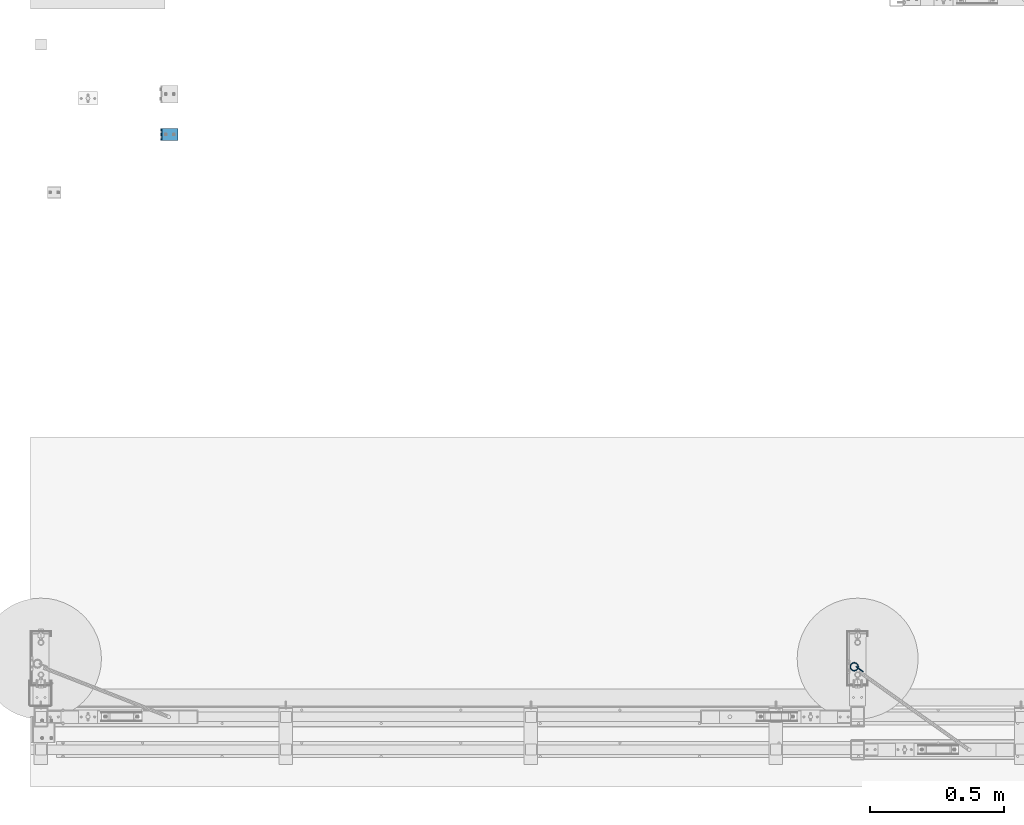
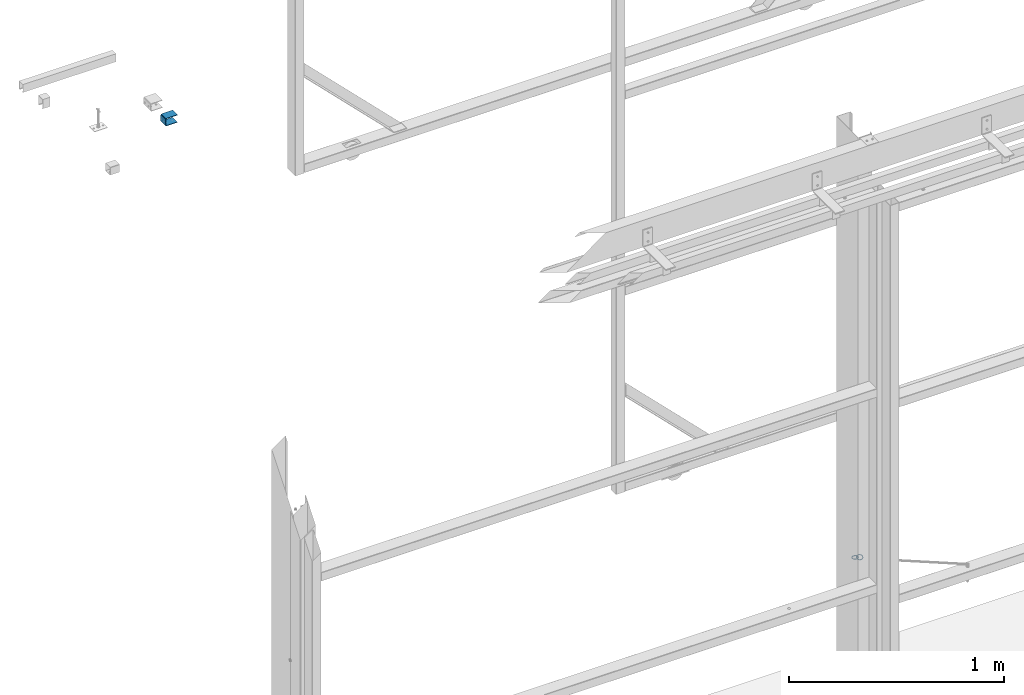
# One storey, part 86 of 91: 3 beams, 3 elements without a shape of their own.
"""IFC2X3 building model written with IfcOpenShell, lengths in millimetres."""

import ifcopenshell
import ifcopenshell.guid

model = None  # the IFC model being written
_history = None  # IfcOwnerHistory: only IFC2X3 demands one
_inside = {}  # id of a spatial element -> (the spatial element, [elements in it])
_under = {}  # id of a project, library or spatial element -> (it, [spatial elements below it])
_declared = {}  # id of a project -> (the project, [libraries it declares])
_typed = {}  # id of a type object -> (the type object, [elements of that type])
_made_of = {}  # id of a material, layer set ... -> (it, [elements and type objects made of it])


def new_model(schema):
    """Start an empty IFC model of exactly this schema.

    Asked for "IFC4X3", IfcOpenShell would pick the latest addendum, in which some entities
    have other attributes; the version numbers below select the first issue.
    IFC2X3 requires an IfcOwnerHistory on every rooted entity: one is made here for all.
    """
    global model, _history
    if schema == "IFC4X3":
        model = ifcopenshell.file(schema_version=(4, 3, 0, 0))
    else:
        model = ifcopenshell.file(schema=schema)
    _inside.clear()
    _under.clear()
    _declared.clear()
    _typed.clear()
    _made_of.clear()
    _history = None
    if model.schema == "IFC2X3":
        org = make("IfcOrganization", Name="unknown")
        user = make(
            "IfcPersonAndOrganization",
            ThePerson=make("IfcPerson", FamilyName="unknown"),
            TheOrganization=org,
        )
        app = make(
            "IfcApplication",
            ApplicationDeveloper=org,
            Version="unknown",
            ApplicationFullName="unknown",
            ApplicationIdentifier="unknown",
        )
        _history = make(
            "IfcOwnerHistory",
            OwningUser=user,
            OwningApplication=app,
            ChangeAction="ADDED",
            CreationDate=0,
        )
    return model


def make(cls, **values):
    """One entity of the class cls with the attributes given. An attribute that is None is left unset."""
    return model.create_entity(
        cls, **{name: value for name, value in values.items() if value is not None}
    )


def rooted(cls, **values):
    """An entity with a GlobalId (a new one), such as an element, a storey or a relation."""
    return make(cls, GlobalId=ifcopenshell.guid.new(), OwnerHistory=_history, **values)


def si_unit(unit_type, name, prefix=None):
    """IfcSIUnit, for example si_unit("LENGTHUNIT", "METRE", prefix="MILLI")."""
    return make("IfcSIUnit", UnitType=unit_type, Prefix=prefix, Name=name)


def assignment(units):
    """IfcUnitAssignment: the units of a project."""
    return None if units is None else make("IfcUnitAssignment", Units=units)


def point(xyz):
    """IfcCartesianPoint."""
    return None if xyz is None else make("IfcCartesianPoint", Coordinates=xyz)


def direction(xyz):
    """IfcDirection."""
    return None if xyz is None else make("IfcDirection", DirectionRatios=xyz)


def frame(location, z_axis=None, x_axis=None):
    """IfcAxis2Placement3D, a coordinate frame: its origin and axes. An axis left out is left unset."""
    return make(
        "IfcAxis2Placement3D",
        Location=point(location),
        Axis=direction(z_axis),
        RefDirection=direction(x_axis),
    )


def origin_with_axes():
    """The frame at (0, 0, 0) with the z axis (0, 0, 1) and the x axis (1, 0, 0) written out."""
    return frame((0.0, 0.0, 0.0), z_axis=(0.0, 0.0, 1.0), x_axis=(1.0, 0.0, 0.0))


def place(relative_to, where):
    """IfcLocalPlacement: puts the frame where relative to a parent placement (None: the world)."""
    return make(
        "IfcLocalPlacement", PlacementRelTo=relative_to, RelativePlacement=where
    )


def context(
    kind, dimensions, precision=None, world=None, true_north=None, identifier=None
):
    """IfcGeometricRepresentationContext, for example the 3D "Model" context."""
    return make(
        "IfcGeometricRepresentationContext",
        ContextIdentifier=identifier,
        ContextType=kind,
        CoordinateSpaceDimension=dimensions,
        Precision=precision,
        WorldCoordinateSystem=world,
        TrueNorth=true_north,
    )


def subcontext(parent, identifier, kind, view, scale=None):
    """IfcGeometricRepresentationSubContext, for example "Body" below "Model"."""
    return make(
        "IfcGeometricRepresentationSubContext",
        ContextIdentifier=identifier,
        ContextType=kind,
        ParentContext=parent,
        TargetScale=scale,
        TargetView=view,
    )


def project(units=None, contexts=None):
    """IfcProject with its units and contexts."""
    return rooted(
        "IfcProject",
        Name="project",
        RepresentationContexts=contexts,
        UnitsInContext=assignment(units),
    )


def spatial(cls, under=None, at=None, **own):
    """A site, building, storey or space (cls), placed at a placement, below another one or the project."""
    s = rooted(cls, ObjectPlacement=at, **own)
    if under is not None:
        _under.setdefault(under.id(), (under, []))[1].append(s)
    return s


def faces_of(points, faces, orient=None, outer=None):
    """IfcFace entities. A face is a list of loops; a loop is a list of indices into points, from 0.

    orient and outer hold one flag for each loop. By default every Orientation is true, the
    first loop of a face is its IfcFaceOuterBound and the others are IfcFaceBound.
    """
    made = []
    for i, loops in enumerate(faces):
        bounds = []
        for j, loop in enumerate(loops):
            is_outer = j == 0 if outer is None else outer[i][j]
            bounds.append(
                make(
                    "IfcFaceOuterBound" if is_outer else "IfcFaceBound",
                    Bound=make("IfcPolyLoop", Polygon=[points[k] for k in loop]),
                    Orientation=True if orient is None else orient[i][j],
                )
            )
        made.append(make("IfcFace", Bounds=bounds))
    return made


def faceted_brep(points, faces, orient=None, outer=None, voids=None):
    """IfcFacetedBrep: a solid bounded by flat faces; with voids (closed shells), ...WithVoids."""
    shared = [point(p) for p in points]
    hull = make("IfcClosedShell", CfsFaces=faces_of(shared, faces, orient, outer))
    if voids is None:
        return make("IfcFacetedBrep", Outer=hull)
    return make(
        "IfcFacetedBrepWithVoids",
        Outer=hull,
        Voids=[
            make(cls, CfsFaces=faces_of(shared, fs, o, b)) for cls, fs, o, b in voids
        ],
    )


def shape(context_of_items, identifier, shape_type, items):
    """IfcShapeRepresentation: the items that make up one representation, for example the "Body"."""
    return make(
        "IfcShapeRepresentation",
        ContextOfItems=context_of_items,
        RepresentationIdentifier=identifier,
        RepresentationType=shape_type,
        Items=items,
    )


def material(Name=None, Category=None):
    """IfcMaterial."""
    return make("IfcMaterial", Name=Name, Category=Category)


def made_of(thing, what):
    """Note that an element or type object is made of a material, layer set ...; save() writes the relation."""
    if what is not None:
        _made_of.setdefault(what.id(), (what, []))[1].append(thing)
    return thing


def type_object(cls, material=None, **own):
    """A type object (cls), such as IfcWallType, which elements share."""
    return made_of(rooted(cls, **own), material)


def element(
    cls,
    number,
    at=None,
    inside=None,
    cuts=None,
    type_object=None,
    material=None,
    context=None,
    identifier="Body",
    shape_type=None,
    held_by="IfcProductDefinitionShape",
    body=None,
    shapes=None,
    **own,
):
    """One element of the class cls, such as IfcWall. Its Tag is "e" and its number.

    at: its placement. inside: the storey or other place that contains it. cuts: it is an
    opening in that element (IfcRelVoidsElement). A single representation is given by context,
    identifier, shape_type and body (its items); several are given by shapes. held_by: the class
    of the entity that holds the representations. save() writes the other relations.
    """
    e = rooted(cls, Tag="e%d" % number, ObjectPlacement=at, **own)
    if body is not None:
        shapes = [shape(context, identifier, shape_type, body)]
    if shapes is not None:
        e.Representation = make(held_by, Representations=shapes)
    if inside is not None:
        _inside.setdefault(inside.id(), (inside, []))[1].append(e)
    if cuts is not None:
        rooted(
            "IfcRelVoidsElement", RelatingBuildingElement=cuts, RelatedOpeningElement=e
        )
    if type_object is not None:
        _typed.setdefault(type_object.id(), (type_object, []))[1].append(e)
    return made_of(e, material)


def aggregate(whole, parts):
    """IfcRelAggregates: a whole, such as a stair, and the parts it consists of."""
    return rooted("IfcRelAggregates", RelatingObject=whole, RelatedObjects=parts)


def save(model, path):
    """Write the relations noted so far, then the file.

    IfcRelAggregates (storeys below a building ...), IfcRelContainedInSpatialStructure (elements
    in a storey), IfcRelDefinesByType, IfcRelAssociatesMaterial and IfcRelDeclares: one each for
    every whole, place, type object, material and project.
    """
    for whole, parts in _under.values():
        aggregate(whole, parts)
    for where, things in _inside.values():
        rooted(
            "IfcRelContainedInSpatialStructure",
            RelatedElements=things,
            RelatingStructure=where,
        )
    for kind, things in _typed.values():
        rooted("IfcRelDefinesByType", RelatedObjects=things, RelatingType=kind)
    for what, things in _made_of.values():
        rooted("IfcRelAssociatesMaterial", RelatedObjects=things, RelatingMaterial=what)
    for by, libraries in _declared.values():
        rooted("IfcRelDeclares", RelatingContext=by, RelatedDefinitions=libraries)
    model.write(path)


model = new_model("IFC2X3")

# Units and contexts
model_context = context("Model", 3, precision=1e-05, world=origin_with_axes())
body_context = subcontext(model_context, "Body", "Model", "MODEL_VIEW")
ifc_project = project(units=[si_unit("LENGTHUNIT", "METRE", prefix="MILLI"), si_unit("AREAUNIT", "SQUARE_METRE"), si_unit("VOLUMEUNIT", "CUBIC_METRE"), si_unit("MASSUNIT", "GRAM", prefix="KILO"), si_unit("TIMEUNIT", "SECOND"), si_unit("PLANEANGLEUNIT", "RADIAN"), si_unit("SOLIDANGLEUNIT", "STERADIAN"), si_unit("THERMODYNAMICTEMPERATUREUNIT", "DEGREE_CELSIUS"), si_unit("LUMINOUSINTENSITYUNIT", "LUMEN")], contexts=[model_context])

# Site, building, storey
site_placement = place(None, origin_with_axes())
site = spatial("IfcSite", under=ifc_project, at=site_placement, Name="Undefined", CompositionType="ELEMENT")
building_placement = place(site_placement, origin_with_axes())
building = spatial("IfcBuilding", under=site, at=building_placement, Name="Undefined", CompositionType="ELEMENT")
storey_placement = place(building_placement, origin_with_axes())
storey = spatial("IfcBuildingStorey", under=building, at=storey_placement, Name="Undefined", CompositionType="ELEMENT", Elevation=0.0)

# Assembly, beam
assembly_1_placement = place(storey_placement, origin_with_axes())
assembly_1 = element("IfcElementAssembly", 1, at=assembly_1_placement, inside=storey, Name="PLATE", AssemblyPlace="NOTDEFINED", PredefinedType="RIGID_FRAME")
ifc_material_1 = material(Name="STEEL/450")
beam_type_1 = type_object("IfcBeamType", Name="PLT3*44", PredefinedType="NOTDEFINED")
beam_1_placement = place(assembly_1_placement, frame((-116285.88, 89877.61, 3371.5), z_axis=(0.0, -1.0, 0.0), x_axis=(-1.0, 0.0, 0.0)))
beam_1 = element("IfcBeam", 2, at=beam_1_placement, type_object=beam_type_1, material=ifc_material_1, Name="PLATE", ObjectType="PLT3*44", context=body_context, shape_type="Brep", body=[
    faceted_brep([(0.0, 1.5, -22.0), (0.0, 1.5, 22.0), (56.0, 1.5, 22.0), (55.9999999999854, 1.5, -22.0), (0.0, -1.5, 22.0), (0.0, -1.5, -22.0), (56.0, -1.5, -22.0), (56.0, -1.5, 22.0), (59.0000000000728, 2.30384757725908, 22.0), (59.0000000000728, 2.30384757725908, -22.0), (60.5000000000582, -0.294228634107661, -22.0), (60.5000000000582, -0.294228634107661, 22.0), (63.794228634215, 2.99999999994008, -22.0), (63.794228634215, 2.99999999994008, 22.0), (61.1961524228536, 4.49999999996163, 22.0), (61.1961524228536, 4.49999999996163, -22.0), (65.0000000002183, 7.49999999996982, -22.0), (65.0000000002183, 7.49999999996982, 22.0), (62.0000000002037, 7.49999999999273, 22.0), (62.0, 7.5, -22.0), (62.0, 33.5, 22.0), (61.9999999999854, 33.4999999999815, -22.0), (65.0, 33.5, -22.0), (65.0, 33.5, 22.0), (61.1961524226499, 36.4999999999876, 22.0), (61.1961524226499, 36.4999999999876, -22.0), (63.7942286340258, 37.9999999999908, -22.0), (63.7942286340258, 37.9999999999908, 22.0), (60.4999999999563, 41.2942286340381, -22.0), (60.4999999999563, 41.2942286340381, 22.0), (58.9999999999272, 38.6961524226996, 22.0), (58.9999999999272, 38.6961524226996, -22.0), (55.9999999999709, 42.5000000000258, -22.0), (55.9999999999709, 42.5000000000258, 22.0), (55.9999999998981, 39.5000000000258, 22.0), (56.0, 39.5, -22.0), (0.0, 39.5, 22.0), (0.0, 39.5, -22.0), (0.0, 42.5, 22.0), (0.0, 42.5, -22.0)], [[[0, 1, 2, 3]], [[4, 5, 6, 7]], [[5, 4, 1, 0]], [[3, 2, 8, 9]], [[7, 6, 10, 11]], [[10, 12, 13, 11]], [[8, 14, 15, 9]], [[12, 16, 17, 13]], [[14, 18, 19, 15]], [[19, 18, 20, 21]], [[17, 16, 22, 23]], [[21, 20, 24, 25]], [[23, 22, 26, 27]], [[26, 28, 29, 27]], [[24, 30, 31, 25]], [[28, 32, 33, 29]], [[30, 34, 35, 31]], [[35, 34, 36, 37]], [[34, 30, 24, 20, 18, 14, 8, 2, 1, 4, 7, 11, 13, 17, 23, 27, 29, 33, 38, 36]], [[33, 32, 39, 38]], [[32, 28, 26, 22, 16, 12, 10, 6, 5, 0, 3, 9, 15, 19, 21, 25, 31, 35, 37, 39]], [[38, 39, 37, 36]]]),
])
aggregate(assembly_1, [beam_1])

assembly_2_placement = place(storey_placement, origin_with_axes())
assembly_2 = element("IfcElementAssembly", 3, at=assembly_2_placement, inside=storey, Name="LINKS", AssemblyPlace="NOTDEFINED", PredefinedType="RIGID_FRAME")
ifc_material_2 = material(Name="STEEL/250")
beam_type_2 = type_object("IfcBeamType", Name="D5", PredefinedType="NOTDEFINED")
beam_2_placement = place(assembly_2_placement, frame((-113786.143040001, 87883.3948728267, 1162.34), z_axis=(0.0, 1.0, 0.0), x_axis=(1.0, 0.0, 0.0)))
beam_2 = element("IfcBeam", 4, at=beam_2_placement, type_object=beam_type_2, material=ifc_material_2, Name="LINKS", ObjectType="D5", context=body_context, shape_type="Brep", body=[
    faceted_brep([(31.767766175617, -1.76776700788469, 14.8999996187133), (32.4999992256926, -5.6170392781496e-08, 14.8999996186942), (32.4999992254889, -5.59666659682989e-08, 15.1000003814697), (31.7677661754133, -1.76776700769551, 15.1000003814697), (31.7677661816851, 1.76776689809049, 14.8999996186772), (31.7677661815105, 1.76776689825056, 15.1000003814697), (29.9999992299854, 2.49999994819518, 14.8999996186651), (29.9999992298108, 2.49999994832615, 15.1000003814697), (28.2322322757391, 1.76776690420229, 14.8999996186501), (28.232232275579, 1.76776690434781, 15.1000003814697), (27.4999992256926, -4.74974513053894e-08, 14.8999996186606), (27.4999992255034, -4.73810359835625e-08, 15.1000003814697), (28.2322322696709, -1.76776700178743, 14.8999996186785), (28.2322322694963, -1.76776700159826, 15.1000003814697), (29.999999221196, -2.5000000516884, 14.8999996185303), (29.9999992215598, -2.50000005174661, 15.100000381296), (28.0037777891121, -2.50000004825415, 22.5500001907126), (26.4728467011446, -1.76776699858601, 21.6661167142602), (25.8387142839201, -4.44706529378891e-08, 21.3000001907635), (26.4728467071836, 1.76776690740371, 21.666116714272), (28.0037777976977, 2.49999995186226, 22.5500001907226), (29.5347088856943, 1.76776690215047, 23.4338836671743), (30.1688413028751, -5.19503373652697e-08, 23.8000001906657), (29.5347088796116, -1.76776700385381, 23.4338836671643), (15.1008655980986, -2.49999993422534, 30.0000000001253), (22.5499994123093, -2.50000003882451, 28.0037785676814), (23.43388289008, -1.76776699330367, 29.5347096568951), (15.1008656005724, -1.767766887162, 31.7677669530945), (15.1008656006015, -1.76776688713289, 28.2322330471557), (21.6661159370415, -1.76776699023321, 26.4728474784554), (15.1008656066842, 6.58328644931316e-08, 27.5000000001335), (21.2999994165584, -3.6612618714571e-08, 25.8387150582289), (15.1008670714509, 1.76776695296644, 28.2322330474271), (21.6661159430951, 1.76776691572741, 26.4728474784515), (15.1008656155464, 2.50000006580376, 30.0), (22.5499994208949, 2.49999996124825, 28.0037785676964), (15.1000003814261, 1.76776695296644, 31.767766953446), (23.433882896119, 1.76776691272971, 29.5347096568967), (15.1008656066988, 6.58183125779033e-08, 32.5000000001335), (23.7999994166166, -4.09199856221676e-08, 30.1688420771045), (29.5347088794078, -1.76776700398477, 6.56611633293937), (28.0037777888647, -2.50000004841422, 7.44999980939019), (30.1688413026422, -5.2081304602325e-08, 6.19999980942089), (29.5347088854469, 1.7677669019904, 6.56611633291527), (28.0037777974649, 2.49999995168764, 7.44999980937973), (26.4728467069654, 1.7677669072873, 8.33388328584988), (25.8387142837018, -4.46161720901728e-08, 8.69999980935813), (26.4728467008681, -1.76776699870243, 8.33388328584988), (22.5499994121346, -2.50000003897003, 1.99622143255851), (21.6661159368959, -1.76776699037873, 3.52715252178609), (23.4338828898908, -1.76776699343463, 0.465290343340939), (23.7999994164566, -4.10655047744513e-08, -0.168842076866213), (23.4338828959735, 1.76776691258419, 0.465290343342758), (22.5499994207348, 2.49999996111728, 1.99622143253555), (21.666115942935, 1.76776691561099, 3.52715252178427), (21.2999994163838, -3.67290340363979e-08, 4.16128494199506), (15.100865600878, -1.76776688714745, 1.76776695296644), (15.1008656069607, 6.58183125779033e-08, 2.5), (15.1008655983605, -2.49999993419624, 0.0), (15.100865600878, -1.76776688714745, -1.76776695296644), (15.1008656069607, 6.58183125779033e-08, -2.5), (15.1008670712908, 1.76776695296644, -1.76776695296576), (15.1008656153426, 2.50000006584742, -8.84483597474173e-11), (15.1000003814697, 1.76776695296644, 1.76776695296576), (-1.56690095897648, 1.76776707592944, 14.899999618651), (-2.29913401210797, 1.25408405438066e-07, 14.8999996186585), (-2.2991340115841, 1.25524820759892e-07, 15.1000003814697), (-1.56690095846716, 1.7677670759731, 15.1000003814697), (-1.56690097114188, -1.76776683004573, 14.8999996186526), (-1.56690097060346, -1.76776682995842, 15.1000003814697), (0.200865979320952, -2.49999988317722, 14.8999996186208), (0.200865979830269, -2.49999988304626, 15.1000003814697), (1.96863293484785, -1.76776684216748, 14.8999996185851), (1.96863293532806, -1.76776684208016, 15.1000003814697), (2.70086598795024, 1.08309905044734e-07, 14.899999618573), (2.7008659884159, 1.08382664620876e-07, 15.1000003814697), (1.96863294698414, 1.7677670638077, 14.8999996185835), (1.96863294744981, 1.7677670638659, 15.1000003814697), (0.200865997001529, 2.50000011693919, 14.8999996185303), (0.200865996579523, 2.50000011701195, 15.1000003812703), (2.19708742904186, 2.5000001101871, 22.5500001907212), (3.72801851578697, 1.76776705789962, 21.6661167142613), (4.36215092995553, 1.02707417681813e-07, 21.3000001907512), (3.72801850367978, -1.76776684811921, 21.6661167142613), (2.19708741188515, -2.49999988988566, 22.5500001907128), (0.666156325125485, -1.76776683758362, 23.43388366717), (0.0320239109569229, 1.17594026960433e-07, 23.8000001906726), (0.66615633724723, 1.76776706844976, 23.4338836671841), (7.65086580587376, 2.50000009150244, 28.003778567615), (6.76698232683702, 1.76776704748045, 29.5347096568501), (8.53474927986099, 1.76776704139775, 26.4728474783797), (8.90086579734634, 8.71368683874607e-08, 25.8387150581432), (8.53474926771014, -1.76776686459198, 26.4728474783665), (7.65086578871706, -2.49999990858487, 28.0037785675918), (6.76698231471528, -1.76776685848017, 29.534709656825), (6.40086579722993, 9.57516022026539e-08, 30.1688420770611), (0.66615633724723, 1.76776706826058, 6.56611633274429), (2.19708742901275, 2.50000011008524, 7.44999980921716), (0.032023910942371, 1.1743395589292e-07, 6.19999980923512), (0.666156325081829, -1.76776683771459, 6.5661163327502), (2.19708741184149, -2.49999988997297, 7.44999980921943), (3.72801850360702, -1.76776684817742, 8.33388328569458), (4.36215092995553, 1.02634658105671e-07, 8.69999980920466), (3.72801851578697, 1.76776705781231, 8.33388328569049), (7.65086580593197, 2.50000009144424, 1.99622143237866), (8.5347492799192, 1.76776704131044, 3.52715252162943), (6.76698232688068, 1.76776704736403, 0.465290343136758), (6.40086579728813, 9.5635186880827e-08, -0.168842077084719), (6.76698231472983, -1.76776685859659, 0.465290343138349), (7.65086578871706, -2.49999990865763, 1.99622143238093), (8.53474926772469, -1.76776686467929, 3.52715252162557), (8.90086579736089, 8.70786607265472e-08, 4.16128494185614)], [[[0, 1, 2, 3]], [[1, 4, 5, 2]], [[4, 6, 7, 5]], [[6, 8, 9, 7]], [[8, 10, 11, 9]], [[10, 12, 13, 11]], [[12, 14, 15, 13]], [[13, 15, 16, 17]], [[11, 13, 17, 18]], [[9, 11, 18, 19]], [[7, 9, 19, 20]], [[5, 7, 20, 21]], [[2, 5, 21, 22]], [[3, 2, 22, 23]], [[24, 25, 26, 27]], [[28, 29, 25, 24]], [[30, 31, 29, 28]], [[32, 33, 31, 30]], [[34, 35, 33, 32]], [[36, 37, 35, 34]], [[38, 39, 37, 36]], [[27, 26, 39, 38]], [[22, 39, 26, 23]], [[21, 37, 39, 22]], [[20, 35, 37, 21]], [[19, 33, 35, 20]], [[18, 31, 33, 19]], [[17, 29, 31, 18]], [[16, 25, 29, 17]], [[23, 26, 25, 16]], [[15, 3, 23, 16]], [[14, 0, 3, 15]], [[40, 0, 14, 41]], [[42, 1, 0, 40]], [[43, 4, 1, 42]], [[44, 6, 4, 43]], [[45, 8, 6, 44]], [[46, 10, 8, 45]], [[47, 12, 10, 46]], [[41, 14, 12, 47]], [[48, 41, 47, 49]], [[50, 40, 41, 48]], [[51, 42, 40, 50]], [[52, 43, 42, 51]], [[53, 44, 43, 52]], [[54, 45, 44, 53]], [[55, 46, 45, 54]], [[49, 47, 46, 55]], [[56, 49, 55, 57]], [[58, 48, 49, 56]], [[59, 50, 48, 58]], [[60, 51, 50, 59]], [[61, 52, 51, 60]], [[62, 53, 52, 61]], [[63, 54, 53, 62]], [[57, 55, 54, 63]], [[64, 65, 66, 67]], [[65, 68, 69, 66]], [[68, 70, 71, 69]], [[70, 72, 73, 71]], [[72, 74, 75, 73]], [[74, 76, 77, 75]], [[76, 78, 79, 77]], [[77, 79, 80, 81]], [[75, 77, 81, 82]], [[73, 75, 82, 83]], [[71, 73, 83, 84]], [[69, 71, 84, 85]], [[66, 69, 85, 86]], [[67, 66, 86, 87]], [[88, 89, 36, 34]], [[90, 88, 34, 32]], [[91, 90, 32, 30]], [[92, 91, 30, 28]], [[93, 92, 28, 24]], [[94, 93, 24, 27]], [[95, 94, 27, 38]], [[89, 95, 38, 36]], [[86, 95, 89, 87]], [[85, 94, 95, 86]], [[84, 93, 94, 85]], [[83, 92, 93, 84]], [[82, 91, 92, 83]], [[81, 90, 91, 82]], [[80, 88, 90, 81]], [[87, 89, 88, 80]], [[79, 67, 87, 80]], [[78, 64, 67, 79]], [[96, 64, 78, 97]], [[98, 65, 64, 96]], [[99, 68, 65, 98]], [[100, 70, 68, 99]], [[101, 72, 70, 100]], [[102, 74, 72, 101]], [[103, 76, 74, 102]], [[97, 78, 76, 103]], [[104, 97, 103, 105]], [[106, 96, 97, 104]], [[107, 98, 96, 106]], [[108, 99, 98, 107]], [[109, 100, 99, 108]], [[110, 101, 100, 109]], [[111, 102, 101, 110]], [[105, 103, 102, 111]], [[105, 111, 57, 63]], [[104, 105, 63, 62]], [[106, 104, 62, 61]], [[107, 106, 61, 60]], [[108, 107, 60, 59]], [[109, 108, 59, 58]], [[110, 109, 58, 56]], [[111, 110, 56, 57]]]),
])
aggregate(assembly_2, [beam_2])

assembly_3_placement = place(storey_placement, origin_with_axes())
assembly_3 = element("IfcElementAssembly", 5, at=assembly_3_placement, inside=storey, Name="LINKS", AssemblyPlace="NOTDEFINED", PredefinedType="RIGID_FRAME")
beam_3_placement = place(assembly_3_placement, frame((-113763.740959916, 87898.2838980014, 1147.33595884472), z_axis=(0.0, 0.0, 1.0), x_axis=(0.815236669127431, -0.57912794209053, 0.0)))
beam_3 = element("IfcBeam", 6, at=beam_3_placement, type_object=beam_type_2, material=ifc_material_2, Name="LINKS", ObjectType="D5", context=body_context, shape_type="Brep", body=[
    faceted_brep([(28.2322322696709, -1.76776700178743, 14.8999996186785), (29.999999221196, -2.5000000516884, 14.8999996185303), (29.9999992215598, -2.50000005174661, 15.100000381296), (28.2322322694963, -1.76776700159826, 15.1000003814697), (31.767766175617, -1.76776700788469, 14.8999996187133), (31.7677661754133, -1.76776700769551, 15.1000003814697), (32.4999992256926, -5.6170392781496e-08, 14.8999996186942), (32.4999992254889, -5.59666659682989e-08, 15.1000003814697), (31.7677661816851, 1.76776689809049, 14.8999996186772), (31.7677661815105, 1.76776689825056, 15.1000003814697), (29.9999992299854, 2.49999994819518, 14.8999996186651), (29.9999992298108, 2.49999994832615, 15.1000003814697), (28.2322322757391, 1.76776690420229, 14.8999996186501), (28.232232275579, 1.76776690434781, 15.1000003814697), (27.4999992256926, -4.74974513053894e-08, 14.8999996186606), (27.4999992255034, -4.73810359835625e-08, 15.1000003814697), (25.8387142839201, -4.44706529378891e-08, 21.3000001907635), (26.4728467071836, 1.76776690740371, 21.666116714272), (28.0037777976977, 2.49999995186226, 22.5500001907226), (29.5347088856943, 1.76776690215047, 23.4338836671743), (30.1688413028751, -5.19503373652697e-08, 23.8000001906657), (29.5347088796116, -1.76776700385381, 23.4338836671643), (28.0037777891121, -2.50000004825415, 22.5500001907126), (26.4728467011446, -1.76776699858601, 21.6661167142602), (15.1008655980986, -2.49999993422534, 30.0000000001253), (22.5499994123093, -2.50000003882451, 28.0037785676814), (23.43388289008, -1.76776699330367, 29.5347096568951), (15.1008656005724, -1.767766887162, 31.7677669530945), (23.7999994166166, -4.09199856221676e-08, 30.1688420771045), (15.1008656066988, 6.58183125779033e-08, 32.5000000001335), (23.433882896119, 1.76776691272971, 29.5347096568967), (15.1008656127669, 1.76776701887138, 31.7677669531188), (22.5499994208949, 2.49999996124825, 28.0037785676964), (15.1008656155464, 2.50000006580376, 30.0), (15.1008656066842, 6.58328644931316e-08, 27.5000000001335), (21.2999994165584, -3.6612618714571e-08, 25.8387150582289), (21.6661159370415, -1.76776699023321, 26.4728474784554), (15.1008656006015, -1.76776688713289, 28.2322330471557), (15.0999996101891, 1.76776692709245, 28.2322330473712), (21.6661159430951, 1.76776691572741, 26.4728474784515), (26.4728467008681, -1.76776699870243, 8.33388328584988), (25.8387142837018, -4.46161720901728e-08, 8.69999980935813), (28.0037777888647, -2.50000004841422, 7.44999980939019), (29.5347088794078, -1.76776700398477, 6.56611633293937), (30.1688413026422, -5.2081304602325e-08, 6.19999980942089), (29.5347088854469, 1.7677669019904, 6.56611633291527), (28.0037777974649, 2.49999995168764, 7.44999980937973), (26.4728467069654, 1.7677669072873, 8.33388328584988), (21.2999994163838, -3.67290340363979e-08, 4.16128494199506), (21.666115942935, 1.76776691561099, 3.52715252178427), (21.6661159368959, -1.76776699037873, 3.52715252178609), (22.5499994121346, -2.50000003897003, 1.99622143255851), (23.4338828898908, -1.76776699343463, 0.465290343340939), (23.7999994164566, -4.10655047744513e-08, -0.168842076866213), (23.4338828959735, 1.76776691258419, 0.465290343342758), (22.5499994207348, 2.49999996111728, 1.99622143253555), (15.1008656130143, 1.76776701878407, 1.76776695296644), (15.1008656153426, 2.50000006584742, -8.84483597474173e-11), (15.1008656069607, 6.58183125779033e-08, 2.5), (15.100865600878, -1.76776688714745, 1.76776695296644), (15.1008655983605, -2.49999993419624, 0.0), (15.100865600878, -1.76776688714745, -1.76776695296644), (15.1008656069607, 6.58183125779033e-08, -2.5), (15.0999996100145, 1.76776692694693, -1.76776695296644), (-1.56690097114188, -1.76776683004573, 14.8999996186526), (0.200865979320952, -2.49999988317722, 14.8999996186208), (0.200865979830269, -2.49999988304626, 15.1000003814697), (-1.56690097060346, -1.76776682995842, 15.1000003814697), (1.96863293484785, -1.76776684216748, 14.8999996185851), (1.96863293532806, -1.76776684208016, 15.1000003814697), (2.70086598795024, 1.08309905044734e-07, 14.899999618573), (2.7008659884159, 1.08382664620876e-07, 15.1000003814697), (1.96863294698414, 1.7677670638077, 14.8999996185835), (1.96863294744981, 1.7677670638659, 15.1000003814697), (0.200865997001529, 2.50000011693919, 14.8999996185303), (0.200865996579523, 2.50000011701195, 15.1000003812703), (-1.56690095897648, 1.76776707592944, 14.899999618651), (-1.56690095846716, 1.7677670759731, 15.1000003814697), (-2.29913401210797, 1.25408405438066e-07, 14.8999996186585), (-2.2991340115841, 1.25524820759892e-07, 15.1000003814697), (0.0320239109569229, 1.17594026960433e-07, 23.8000001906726), (0.66615633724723, 1.76776706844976, 23.4338836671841), (2.19708742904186, 2.5000001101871, 22.5500001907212), (3.72801851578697, 1.76776705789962, 21.6661167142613), (4.36215092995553, 1.02707417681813e-07, 21.3000001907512), (3.72801850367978, -1.76776684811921, 21.6661167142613), (2.19708741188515, -2.49999988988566, 22.5500001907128), (0.666156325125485, -1.76776683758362, 23.43388366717), (7.65086578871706, -2.49999990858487, 28.0037785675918), (8.53474926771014, -1.76776686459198, 26.4728474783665), (8.90086579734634, 8.71368683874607e-08, 25.8387150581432), (8.53474927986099, 1.76776704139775, 26.4728474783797), (7.65086580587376, 2.50000009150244, 28.003778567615), (6.40086579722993, 9.57516022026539e-08, 30.1688420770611), (6.76698231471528, -1.76776685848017, 29.534709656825), (6.76698232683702, 1.76776704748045, 29.5347096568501), (0.666156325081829, -1.76776683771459, 6.5661163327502), (0.032023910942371, 1.1743395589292e-07, 6.19999980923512), (2.19708741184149, -2.49999988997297, 7.44999980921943), (3.72801850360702, -1.76776684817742, 8.33388328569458), (4.36215092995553, 1.02634658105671e-07, 8.69999980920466), (3.72801851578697, 1.76776705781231, 8.33388328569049), (2.19708742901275, 2.50000011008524, 7.44999980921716), (0.66615633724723, 1.76776706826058, 6.56611633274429), (6.40086579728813, 9.5635186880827e-08, -0.168842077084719), (6.76698232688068, 1.76776704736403, 0.465290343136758), (6.76698231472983, -1.76776685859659, 0.465290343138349), (7.65086578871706, -2.49999990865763, 1.99622143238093), (8.53474926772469, -1.76776686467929, 3.52715252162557), (8.90086579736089, 8.70786607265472e-08, 4.16128494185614), (8.5347492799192, 1.76776704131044, 3.52715252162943), (7.65086580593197, 2.50000009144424, 1.99622143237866)], [[[0, 1, 2, 3]], [[1, 4, 5, 2]], [[4, 6, 7, 5]], [[6, 8, 9, 7]], [[8, 10, 11, 9]], [[10, 12, 13, 11]], [[12, 14, 15, 13]], [[13, 15, 16, 17]], [[11, 13, 17, 18]], [[9, 11, 18, 19]], [[7, 9, 19, 20]], [[5, 7, 20, 21]], [[2, 5, 21, 22]], [[3, 2, 22, 23]], [[24, 25, 26, 27]], [[27, 26, 28, 29]], [[29, 28, 30, 31]], [[31, 30, 32, 33]], [[34, 35, 36, 37]], [[38, 39, 35, 34]], [[33, 32, 39, 38]], [[37, 36, 25, 24]], [[22, 25, 36, 23]], [[21, 26, 25, 22]], [[20, 28, 26, 21]], [[19, 30, 28, 20]], [[18, 32, 30, 19]], [[17, 39, 32, 18]], [[16, 35, 39, 17]], [[23, 36, 35, 16]], [[15, 3, 23, 16]], [[14, 0, 3, 15]], [[40, 0, 14, 41]], [[42, 1, 0, 40]], [[43, 4, 1, 42]], [[44, 6, 4, 43]], [[45, 8, 6, 44]], [[46, 10, 8, 45]], [[47, 12, 10, 46]], [[41, 14, 12, 47]], [[48, 41, 47, 49]], [[50, 40, 41, 48]], [[51, 42, 40, 50]], [[52, 43, 42, 51]], [[53, 44, 43, 52]], [[54, 45, 44, 53]], [[55, 46, 45, 54]], [[49, 47, 46, 55]], [[56, 49, 55, 57]], [[58, 48, 49, 56]], [[59, 50, 48, 58]], [[60, 51, 50, 59]], [[61, 52, 51, 60]], [[62, 53, 52, 61]], [[63, 54, 53, 62]], [[57, 55, 54, 63]], [[64, 65, 66, 67]], [[65, 68, 69, 66]], [[68, 70, 71, 69]], [[70, 72, 73, 71]], [[72, 74, 75, 73]], [[74, 76, 77, 75]], [[76, 78, 79, 77]], [[77, 79, 80, 81]], [[75, 77, 81, 82]], [[73, 75, 82, 83]], [[71, 73, 83, 84]], [[69, 71, 84, 85]], [[66, 69, 85, 86]], [[67, 66, 86, 87]], [[88, 89, 37, 24]], [[89, 90, 34, 37]], [[90, 91, 38, 34]], [[91, 92, 33, 38]], [[93, 94, 27, 29]], [[95, 93, 29, 31]], [[92, 95, 31, 33]], [[94, 88, 24, 27]], [[86, 88, 94, 87]], [[85, 89, 88, 86]], [[84, 90, 89, 85]], [[83, 91, 90, 84]], [[82, 92, 91, 83]], [[81, 95, 92, 82]], [[80, 93, 95, 81]], [[87, 94, 93, 80]], [[79, 67, 87, 80]], [[78, 64, 67, 79]], [[96, 64, 78, 97]], [[98, 65, 64, 96]], [[99, 68, 65, 98]], [[100, 70, 68, 99]], [[101, 72, 70, 100]], [[102, 74, 72, 101]], [[103, 76, 74, 102]], [[97, 78, 76, 103]], [[104, 97, 103, 105]], [[106, 96, 97, 104]], [[107, 98, 96, 106]], [[108, 99, 98, 107]], [[109, 100, 99, 108]], [[110, 101, 100, 109]], [[111, 102, 101, 110]], [[105, 103, 102, 111]], [[105, 111, 57, 63]], [[104, 105, 63, 62]], [[106, 104, 62, 61]], [[107, 106, 61, 60]], [[108, 107, 60, 59]], [[109, 108, 59, 58]], [[110, 109, 58, 56]], [[111, 110, 56, 57]]]),
])
aggregate(assembly_3, [beam_3])

save(model, "model.ifc")
